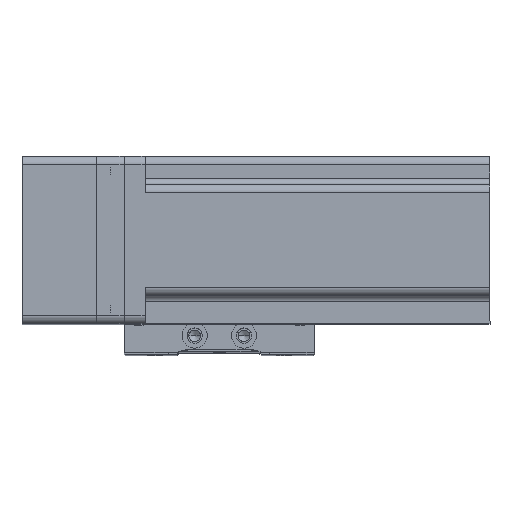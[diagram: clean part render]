
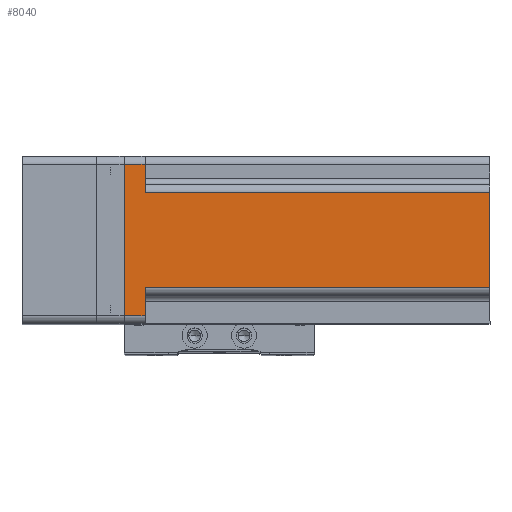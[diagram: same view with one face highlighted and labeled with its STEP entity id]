
A CAD part, top view. The second image highlights one B-rep face of the part: STEP entity #8040.
In plain terms, the highlighted planar face has unit normal (0, 0, 1) as drawn and (0, 1, 0) by its records, which use the part's own axes.
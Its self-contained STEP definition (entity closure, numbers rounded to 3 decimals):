
#564 = CARTESIAN_POINT ( 'NONE',  ( 27., 30., 130.7 ) ) ;
#1149 = FACE_OUTER_BOUND ( 'NONE', #27869, .T. ) ;
#1301 = LINE ( 'NONE', #10062, #16888 ) ;
#1853 = LINE ( 'NONE', #564, #36200 ) ;
#2011 = CARTESIAN_POINT ( 'NONE',  ( 30., 30., 130.7 ) ) ;
#2292 = VECTOR ( 'NONE', #37723, 1000. ) ;
#3340 = DIRECTION ( 'NONE',  ( 1., 0., 0. ) ) ;
#3510 = EDGE_CURVE ( 'NONE', #30505, #37327, #1301, .T. ) ;
#5345 = DIRECTION ( 'NONE',  ( 1., 0., 0. ) ) ;
#7495 = LINE ( 'NONE', #32215, #25184 ) ;
#7769 = ORIENTED_EDGE ( 'NONE', *, *, #3510, .T. ) ;
#7950 = CARTESIAN_POINT ( 'NONE',  ( 20., 30., 7.5 ) ) ;
#8040 = ADVANCED_FACE ( 'NONE', ( #1149 ), #25010, .F. ) ;
#8293 = EDGE_CURVE ( 'NONE', #9304, #24555, #27105, .T. ) ;
#8932 = DIRECTION ( 'NONE',  ( 0., 0., 1. ) ) ;
#9304 = VERTEX_POINT ( 'NONE', #14405 ) ;
#9500 = ORIENTED_EDGE ( 'NONE', *, *, #28387, .T. ) ;
#10062 = CARTESIAN_POINT ( 'NONE',  ( 30., 30., 0. ) ) ;
#11122 = LINE ( 'NONE', #7950, #2292 ) ;
#12178 = VERTEX_POINT ( 'NONE', #37517 ) ;
#12535 = DIRECTION ( 'NONE',  ( -1., 0., 0. ) ) ;
#13091 = ORIENTED_EDGE ( 'NONE', *, *, #41646, .F. ) ;
#13578 = CARTESIAN_POINT ( 'NONE',  ( 17., 30., 130.7 ) ) ;
#14166 = DIRECTION ( 'NONE',  ( -1., 0., 0. ) ) ;
#14405 = CARTESIAN_POINT ( 'NONE',  ( 17., 30., 130.7 ) ) ;
#15658 = VERTEX_POINT ( 'NONE', #26341 ) ;
#16888 = VECTOR ( 'NONE', #14166, 1000. ) ;
#17836 = CARTESIAN_POINT ( 'NONE',  ( -17., 30., 7.5 ) ) ;
#18647 = CARTESIAN_POINT ( 'NONE',  ( 27., 30., 7.5 ) ) ;
#19326 = ORIENTED_EDGE ( 'NONE', *, *, #37793, .T. ) ;
#20263 = VECTOR ( 'NONE', #33844, 1000. ) ;
#20272 = DIRECTION ( 'NONE',  ( 0., 0., -1. ) ) ;
#22214 = VECTOR ( 'NONE', #12535, 1000. ) ;
#22355 = VECTOR ( 'NONE', #3340, 1000. ) ;
#23357 = VERTEX_POINT ( 'NONE', #17836 ) ;
#24555 = VERTEX_POINT ( 'NONE', #38615 ) ;
#25010 = PLANE ( 'NONE',  #32173 ) ;
#25184 = VECTOR ( 'NONE', #8932, 1000. ) ;
#25280 = DIRECTION ( 'NONE',  ( 0., -1., 0. ) ) ;
#26341 = CARTESIAN_POINT ( 'NONE',  ( -27., 30., 7.5 ) ) ;
#26614 = EDGE_CURVE ( 'NONE', #27524, #24555, #11122, .T. ) ;
#26806 = EDGE_CURVE ( 'NONE', #23357, #12178, #7495, .T. ) ;
#27105 = LINE ( 'NONE', #13578, #34950 ) ;
#27376 = ORIENTED_EDGE ( 'NONE', *, *, #26614, .F. ) ;
#27524 = VERTEX_POINT ( 'NONE', #18647 ) ;
#27869 = EDGE_LOOP ( 'NONE', ( #19326, #33309, #13091, #33207, #27376, #9500, #7769, #33772 ) ) ;
#28387 = EDGE_CURVE ( 'NONE', #27524, #30505, #1853, .T. ) ;
#29083 = LINE ( 'NONE', #40339, #20263 ) ;
#29913 = CARTESIAN_POINT ( 'NONE',  ( -20., 30., 7.5 ) ) ;
#30490 = DIRECTION ( 'NONE',  ( 0., 0., -1. ) ) ;
#30505 = VERTEX_POINT ( 'NONE', #37510 ) ;
#31263 = LINE ( 'NONE', #29913, #22355 ) ;
#32173 = AXIS2_PLACEMENT_3D ( 'NONE', #2011, #25280, #5345 ) ;
#32178 = LINE ( 'NONE', #42547, #22214 ) ;
#32215 = CARTESIAN_POINT ( 'NONE',  ( -17., 30., 130.7 ) ) ;
#32872 = EDGE_CURVE ( 'NONE', #37327, #15658, #29083, .T. ) ;
#33207 = ORIENTED_EDGE ( 'NONE', *, *, #8293, .T. ) ;
#33309 = ORIENTED_EDGE ( 'NONE', *, *, #26806, .T. ) ;
#33772 = ORIENTED_EDGE ( 'NONE', *, *, #32872, .T. ) ;
#33844 = DIRECTION ( 'NONE',  ( 0., 0., 1. ) ) ;
#34950 = VECTOR ( 'NONE', #20272, 1000. ) ;
#35453 = CARTESIAN_POINT ( 'NONE',  ( -27., 30., 0. ) ) ;
#36200 = VECTOR ( 'NONE', #30490, 1000. ) ;
#37327 = VERTEX_POINT ( 'NONE', #35453 ) ;
#37510 = CARTESIAN_POINT ( 'NONE',  ( 27., 30., 0. ) ) ;
#37517 = CARTESIAN_POINT ( 'NONE',  ( -17., 30., 130.7 ) ) ;
#37723 = DIRECTION ( 'NONE',  ( -1., 0., 0. ) ) ;
#37793 = EDGE_CURVE ( 'NONE', #15658, #23357, #31263, .T. ) ;
#38615 = CARTESIAN_POINT ( 'NONE',  ( 17., 30., 7.5 ) ) ;
#40339 = CARTESIAN_POINT ( 'NONE',  ( -27., 30., 130.7 ) ) ;
#41646 = EDGE_CURVE ( 'NONE', #9304, #12178, #32178, .T. ) ;
#42547 = CARTESIAN_POINT ( 'NONE',  ( 30., 30., 130.7 ) ) ;
